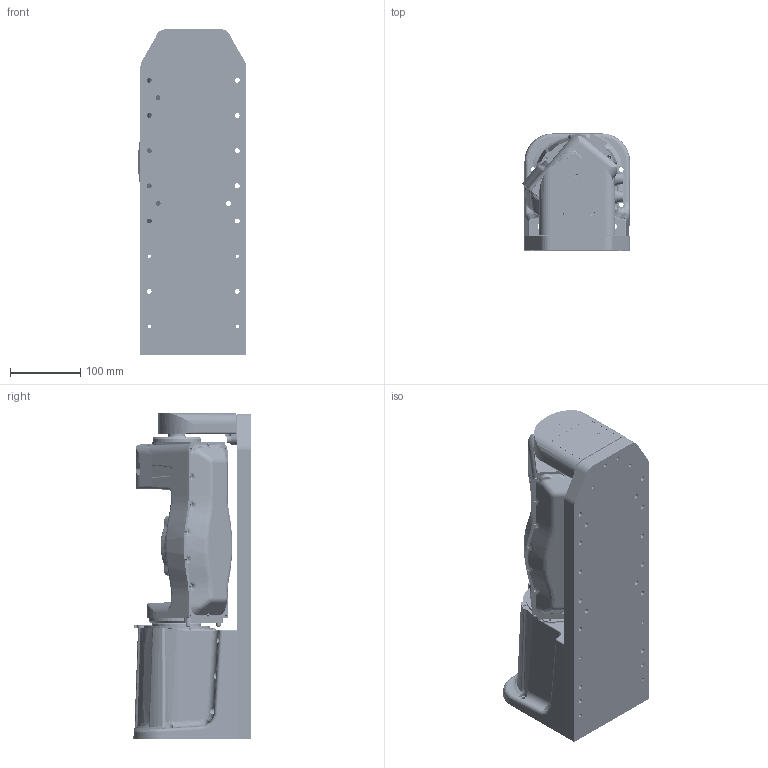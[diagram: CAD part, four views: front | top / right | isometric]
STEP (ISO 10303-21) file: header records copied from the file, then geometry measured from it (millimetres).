
FILE_DESCRIPTION (( 'STEP AP203' ), '1' );
FILE_NAME ('Drehschwenkeinheit DSH-S - servo - 26541x x000.STEP', '2010-04-07T06:52:28', ( 'HI' ), ( '' ), 'SwSTEP 2.0', 'SolidWorks 2009', '' );
FILE_SCHEMA (( 'CONFIG_CONTROL_DESIGN' ));
Products named in the file (3): Drehschwenkeinheit DSH-S - servo - 26541x x000; RDH-S mit Platte - Anschluss 2x M16; R5H-S - Schwenk - Servo
Assembly tree (2 placements, depth 2):
  Drehschwenkeinheit DSH-S - servo - 26541x x000
    RDH-S mit Platte - Anschluss 2x M16
    R5H-S - Schwenk - Servo
Bounding box: 153.53 x 166.5 x 462.5 mm (x, y, z)
Volume: 3489272.7 mm3; surface area: 805523.8 mm2
Topology: 95 solids, 96 shells, 4776 faces, 11270 edges, 6684 vertices
Faces by surface type: cylinder 1689, plane 1565, cone 660, bspline 403, torus 361, sphere 98
Entity records: 158624 total; most frequent: CARTESIAN_POINT 51865, DIRECTION 22753, ORIENTED_EDGE 21582, EDGE_CURVE 10791, AXIS2_PLACEMENT_3D 8959, VERTEX_POINT 6608, EDGE_LOOP 5555, LINE 4835
